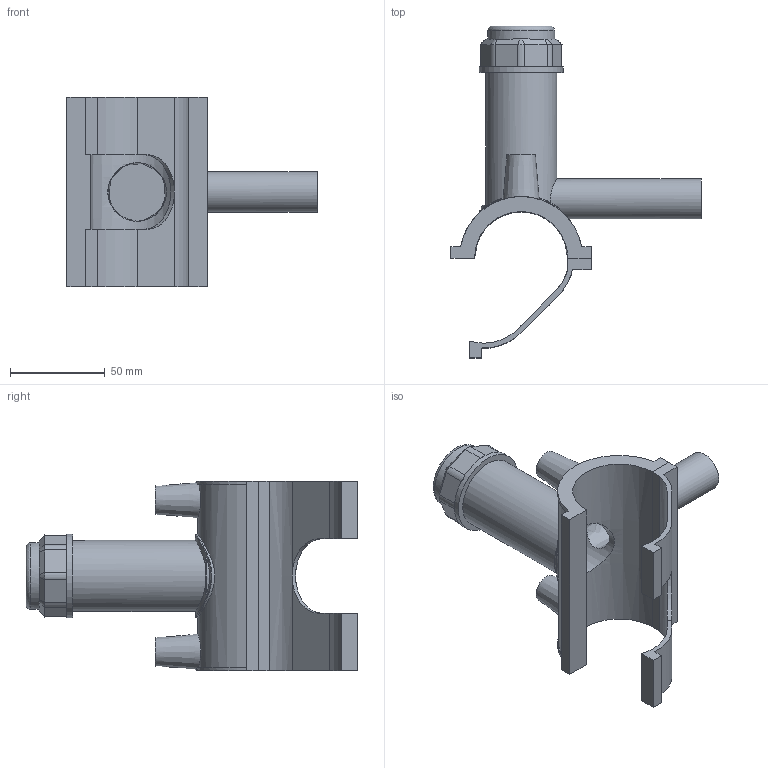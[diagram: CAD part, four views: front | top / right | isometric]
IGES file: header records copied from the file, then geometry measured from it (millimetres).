
Global section: file name: 5963BB03015005.ipt; native system: Autodesk Inventor 2019; preprocessor: unknown; author: KIM; date: 20210830.101335; units: millimetre
Bounding box: 132.08 x 175.14 x 100.08 mm (x, y, z)
Volume: 162371.5 mm3; surface area: 69869.8 mm2
Topology: 2 solids, 2 shells, 111 faces, 286 edges, 187 vertices
Faces by surface type: plane 66, cylinder 23, cone 11, revolution 10, bspline 1
Full cylindrical faces by diameter (mm): 4 x2, 21.2 x1, 35.352 x1, 37.562 x1, 44.19 x1
